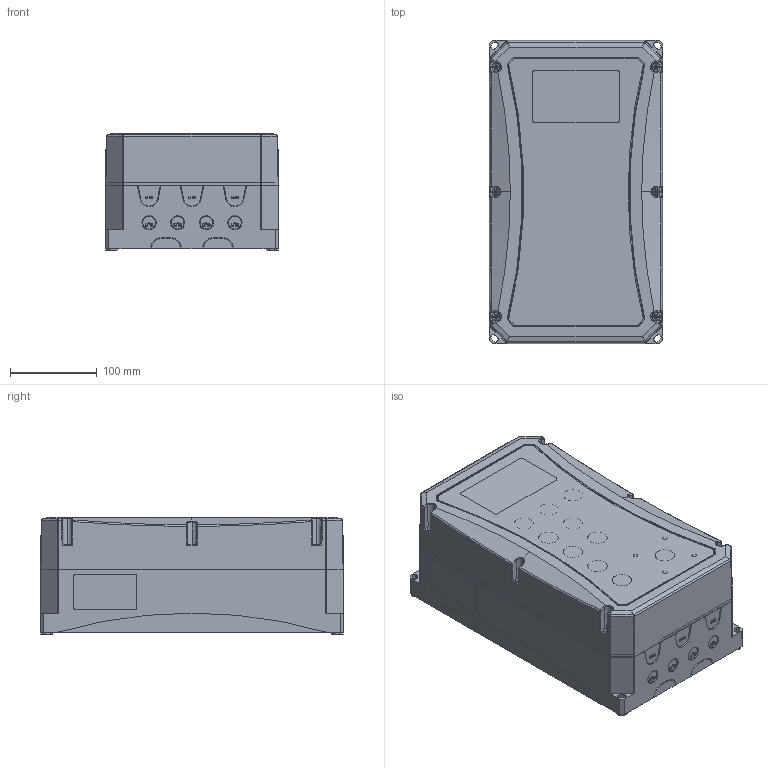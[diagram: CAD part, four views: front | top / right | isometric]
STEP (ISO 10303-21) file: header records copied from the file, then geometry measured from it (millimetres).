
FILE_DESCRIPTION (( 'STEP AP214' ), '1' );
FILE_NAME ('S10432_Steuerung_twist_UG.STEP', '2018-05-03T12:21:47', ( '' ), ( '' ), 'SwSTEP 2.0', 'SolidWorks 2017', '' );
FILE_SCHEMA (( 'AUTOMOTIVE_DESIGN' ));
Length unit declared in the file: millimetre
Products named in the file (4): 20802v001_folie_für_deckel_automatiksteuerung_tiga+_3Tasten; 20801V000_Gehäuse_Deckel_geschlossen_Automatiksteuerung; 20800V000_Gehäuse_UT_Automatiksteuerung; S10432_Steuerung_twist_UG
Assembly tree (3 placements, depth 2):
  S10432_Steuerung_twist_UG
    20800V000_Gehäuse_UT_Automatiksteuerung
    20801V000_Gehäuse_Deckel_geschlossen_Automatiksteuerung
    20802v001_folie_für_deckel_automatiksteuerung_tiga+_3Tasten
Bounding box: 200.5 x 350 x 135 mm (x, y, z)
Volume: 853308.6 mm3; surface area: 710414.2 mm2
Topology: 3 solids, 3 shells, 3890 faces, 10437 edges, 6835 vertices
Faces by surface type: plane 2120, cylinder 530, cone 527, bspline 415, torus 238, sphere 60
Entity records: 148823 total; most frequent: CARTESIAN_POINT 49375, ORIENTED_EDGE 20874, DIRECTION 18014, EDGE_CURVE 10437, VERTEX_POINT 6835, LINE 6138, VECTOR 6138, AXIS2_PLACEMENT_3D 5938
